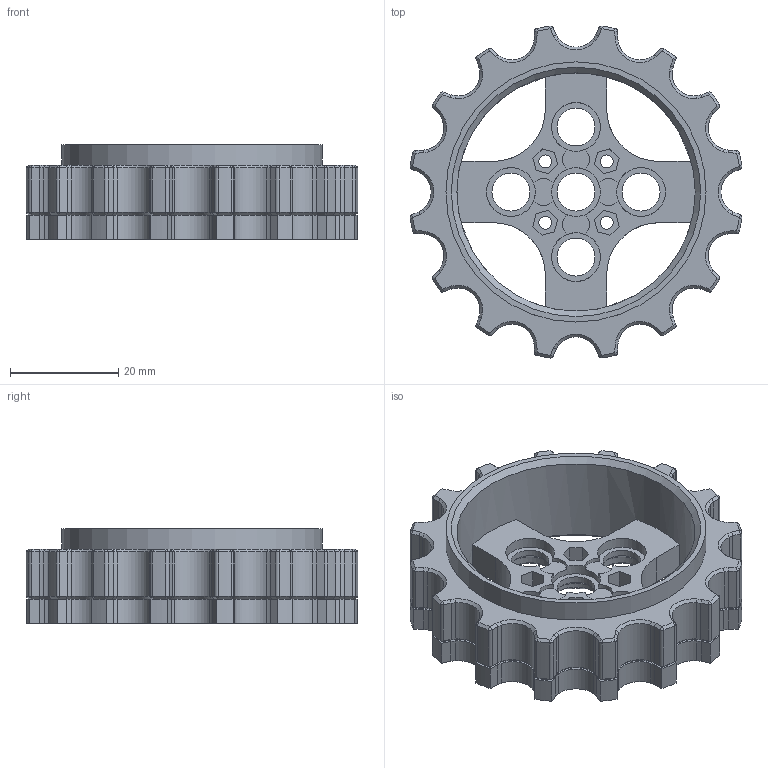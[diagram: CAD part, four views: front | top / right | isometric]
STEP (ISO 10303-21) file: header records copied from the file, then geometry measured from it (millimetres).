
FILE_DESCRIPTION(/* description */ ('STEP AP242','CAx-IF Rec.Pracs.---Representation and Presentation of Product Manufacturing Information (PMI)---4.0---2014-10-13','CAx-IF Rec.Pracs.---3D Tessellated Geometry---0.4---2014-09-14','2;1'),/* implementation_level */ '2;1');
FILE_NAME(/* name */ 'TurtleBot3 Burger - P30_ISP_A001_3D',/* time_stamp */ '2025-02-06T06:21:09Z',/* author */ (''),/* organization */ (''),/* preprocessor_version */ 'ST-DEVELOPER v20',/* originating_system */ 'ONSHAPE BY PTC INC, 1.193',/* authorisation */ ' ');
FILE_SCHEMA (('AP242_MANAGED_MODEL_BASED_3D_ENGINEERING_MIM_LF { 1 0 10303 442 1 1 4 }'));
Length unit declared in the file: metre
Products named in the file (1): P30_ISP_A001_3D
Bounding box: 61.25 x 61.25 x 17.5 mm (x, y, z)
Surface area: 13047.7 mm2 (no closed solid volume)
Topology: 0 solids, 1 shells, 723 faces, 1854 edges, 1139 vertices
Faces by surface type: cylinder 267, plane 229, cone 227
Full cylindrical faces by diameter (mm): 2.4 x4, 7 x5, 9 x10, 44 x1, 48 x2
Entity records: 21682 total; most frequent: DIRECTION 4014, CARTESIAN_POINT 3873, ORIENTED_EDGE 3592, EDGE_CURVE 1796, AXIS2_PLACEMENT_3D 1565, VERTEX_POINT 1116, LINE 884, VECTOR 884
